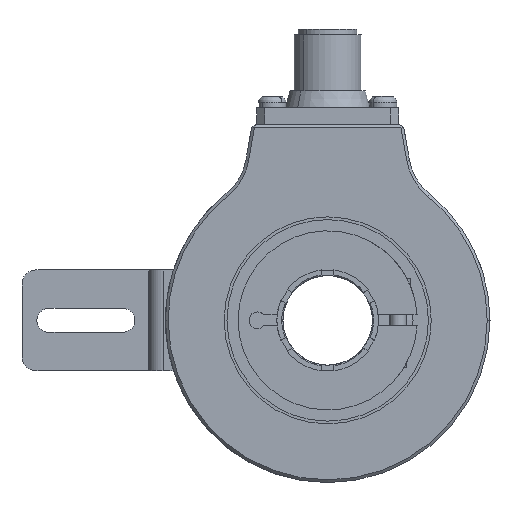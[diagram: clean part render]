
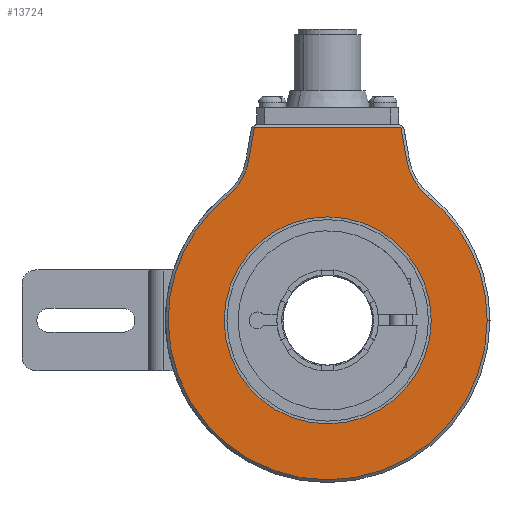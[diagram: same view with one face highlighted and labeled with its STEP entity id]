
A CAD part, left-side view. The second image highlights one B-rep face of the part: STEP entity #13724.
In plain terms, the highlighted planar face has unit normal (-1, 0, 0).
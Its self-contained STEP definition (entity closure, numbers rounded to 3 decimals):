
#14 = VERTEX_POINT ( 'NONE', #21094 ) ;
#329 = ORIENTED_EDGE ( 'NONE', *, *, #13769, .T. ) ;
#349 = LINE ( 'NONE', #10658, #14247 ) ;
#464 = LINE ( 'NONE', #6817, #12156 ) ;
#742 = CARTESIAN_POINT ( 'NONE',  ( -27., 0., 0. ) ) ;
#1132 = EDGE_CURVE ( 'NONE', #12300, #14, #18767, .T. ) ;
#1183 = CARTESIAN_POINT ( 'NONE',  ( -27., -13.08, 34.5 ) ) ;
#1698 = ORIENTED_EDGE ( 'NONE', *, *, #22466, .T. ) ;
#1988 = FACE_BOUND ( 'NONE', #5858, .T. ) ;
#2061 = VERTEX_POINT ( 'NONE', #13987 ) ;
#2632 = AXIS2_PLACEMENT_3D ( 'NONE', #15792, #6795, #15563 ) ;
#2935 = DIRECTION ( 'NONE',  ( 1., 0., 0. ) ) ;
#3313 = CIRCLE ( 'NONE', #14908, 18.5 ) ;
#3734 = DIRECTION ( 'NONE',  ( 0., 0.174, 0.985 ) ) ;
#3962 = DIRECTION ( 'NONE',  ( 0., -1., 0. ) ) ;
#4111 = CARTESIAN_POINT ( 'NONE',  ( -27., 17.883, 22.191 ) ) ;
#4221 = EDGE_CURVE ( 'NONE', #8905, #2061, #21998, .T. ) ;
#4504 = AXIS2_PLACEMENT_3D ( 'NONE', #16896, #6250, #4614 ) ;
#4614 = DIRECTION ( 'NONE',  ( 0., -1., 0. ) ) ;
#4829 = EDGE_CURVE ( 'NONE', #14, #12300, #3313, .T. ) ;
#4901 = EDGE_CURVE ( 'NONE', #20304, #12244, #19406, .T. ) ;
#5015 = VERTEX_POINT ( 'NONE', #9791 ) ;
#5376 = DIRECTION ( 'NONE',  ( 0., -1., 0. ) ) ;
#5561 = ORIENTED_EDGE ( 'NONE', *, *, #12462, .T. ) ;
#5858 = EDGE_LOOP ( 'NONE', ( #12519, #22228 ) ) ;
#6134 = DIRECTION ( 'NONE',  ( 0., -1., 0. ) ) ;
#6250 = DIRECTION ( 'NONE',  ( -1., 0., 0. ) ) ;
#6410 = ORIENTED_EDGE ( 'NONE', *, *, #4901, .T. ) ;
#6549 = VECTOR ( 'NONE', #17440, 1000. ) ;
#6571 = CARTESIAN_POINT ( 'NONE',  ( -27., 28.5, 0. ) ) ;
#6795 = DIRECTION ( 'NONE',  ( 1., 0., 0. ) ) ;
#6817 = CARTESIAN_POINT ( 'NONE',  ( -27., 19.46, -1.682 ) ) ;
#7425 = DIRECTION ( 'NONE',  ( 0., -1., 0. ) ) ;
#7927 = AXIS2_PLACEMENT_3D ( 'NONE', #742, #13484, #15138 ) ;
#8203 = CARTESIAN_POINT ( 'NONE',  ( -27., 0., 0. ) ) ;
#8905 = VERTEX_POINT ( 'NONE', #6571 ) ;
#8914 = CARTESIAN_POINT ( 'NONE',  ( -27., 13.08, 34.5 ) ) ;
#9118 = PLANE ( 'NONE',  #21889 ) ;
#9336 = CIRCLE ( 'NONE', #10843, 28.5 ) ;
#9634 = DIRECTION ( 'NONE',  ( -1., 0., 0. ) ) ;
#9725 = DIRECTION ( 'NONE',  ( 0., 1., 0. ) ) ;
#9727 = VERTEX_POINT ( 'NONE', #1183 ) ;
#9791 = CARTESIAN_POINT ( 'NONE',  ( -27., -17.883, 22.191 ) ) ;
#10065 = CARTESIAN_POINT ( 'NONE',  ( -27., 29., 34.5 ) ) ;
#10331 = FACE_OUTER_BOUND ( 'NONE', #22254, .T. ) ;
#10653 = VERTEX_POINT ( 'NONE', #8914 ) ;
#10658 = CARTESIAN_POINT ( 'NONE',  ( -27., -17.711, 8.236 ) ) ;
#10843 = AXIS2_PLACEMENT_3D ( 'NONE', #21945, #9634, #7425 ) ;
#10983 = CARTESIAN_POINT ( 'NONE',  ( -27., 24.471, 30.367 ) ) ;
#11169 = DIRECTION ( 'NONE',  ( -1., 0., 0. ) ) ;
#11628 = CIRCLE ( 'NONE', #4504, 28.5 ) ;
#11900 = AXIS2_PLACEMENT_3D ( 'NONE', #22180, #11169, #6134 ) ;
#12156 = VECTOR ( 'NONE', #18258, 1000. ) ;
#12244 = VERTEX_POINT ( 'NONE', #4111 ) ;
#12300 = VERTEX_POINT ( 'NONE', #20736 ) ;
#12462 = EDGE_CURVE ( 'NONE', #15616, #9727, #349, .T. ) ;
#12519 = ORIENTED_EDGE ( 'NONE', *, *, #1132, .T. ) ;
#12664 = ORIENTED_EDGE ( 'NONE', *, *, #21482, .T. ) ;
#12724 = CIRCLE ( 'NONE', #2632, 10.5 ) ;
#12846 = DIRECTION ( 'NONE',  ( 1., 0., 0. ) ) ;
#13484 = DIRECTION ( 'NONE',  ( 1., 0., 0. ) ) ;
#13724 = ADVANCED_FACE ( 'NONE', ( #10331, #1988 ), #9118, .T. ) ;
#13769 = EDGE_CURVE ( 'NONE', #10653, #20304, #464, .T. ) ;
#13987 = CARTESIAN_POINT ( 'NONE',  ( -27., -28.5, 0. ) ) ;
#14247 = VECTOR ( 'NONE', #3734, 1000. ) ;
#14496 = CARTESIAN_POINT ( 'NONE',  ( -27., 29., 0. ) ) ;
#14908 = AXIS2_PLACEMENT_3D ( 'NONE', #8203, #2935, #9725 ) ;
#15138 = DIRECTION ( 'NONE',  ( 0., 1., 0. ) ) ;
#15289 = ORIENTED_EDGE ( 'NONE', *, *, #19604, .T. ) ;
#15563 = DIRECTION ( 'NONE',  ( 0., -1., 0. ) ) ;
#15616 = VERTEX_POINT ( 'NONE', #19282 ) ;
#15792 = CARTESIAN_POINT ( 'NONE',  ( -27., -24.471, 30.367 ) ) ;
#16896 = CARTESIAN_POINT ( 'NONE',  ( -27., 0., 0. ) ) ;
#17440 = DIRECTION ( 'NONE',  ( 0., 1., 0. ) ) ;
#18258 = DIRECTION ( 'NONE',  ( 0., 0.174, -0.985 ) ) ;
#18295 = AXIS2_PLACEMENT_3D ( 'NONE', #10983, #12846, #3962 ) ;
#18767 = CIRCLE ( 'NONE', #7927, 18.5 ) ;
#18978 = LINE ( 'NONE', #10065, #6549 ) ;
#19282 = CARTESIAN_POINT ( 'NONE',  ( -27., -14.131, 28.544 ) ) ;
#19406 = CIRCLE ( 'NONE', #18295, 10.5 ) ;
#19604 = EDGE_CURVE ( 'NONE', #5015, #15616, #12724, .T. ) ;
#19611 = ORIENTED_EDGE ( 'NONE', *, *, #4221, .T. ) ;
#19988 = EDGE_CURVE ( 'NONE', #2061, #5015, #11628, .T. ) ;
#20304 = VERTEX_POINT ( 'NONE', #20739 ) ;
#20736 = CARTESIAN_POINT ( 'NONE',  ( -27., 18.5, 0. ) ) ;
#20739 = CARTESIAN_POINT ( 'NONE',  ( -27., 14.131, 28.544 ) ) ;
#21094 = CARTESIAN_POINT ( 'NONE',  ( -27., -18.5, 0. ) ) ;
#21221 = ORIENTED_EDGE ( 'NONE', *, *, #19988, .T. ) ;
#21416 = DIRECTION ( 'NONE',  ( -1., 0., 0. ) ) ;
#21482 = EDGE_CURVE ( 'NONE', #9727, #10653, #18978, .T. ) ;
#21889 = AXIS2_PLACEMENT_3D ( 'NONE', #14496, #21416, #5376 ) ;
#21945 = CARTESIAN_POINT ( 'NONE',  ( -27., 0., 0. ) ) ;
#21998 = CIRCLE ( 'NONE', #11900, 28.5 ) ;
#22180 = CARTESIAN_POINT ( 'NONE',  ( -27., 0., 0. ) ) ;
#22228 = ORIENTED_EDGE ( 'NONE', *, *, #4829, .T. ) ;
#22254 = EDGE_LOOP ( 'NONE', ( #5561, #12664, #329, #6410, #1698, #19611, #21221, #15289 ) ) ;
#22466 = EDGE_CURVE ( 'NONE', #12244, #8905, #9336, .T. ) ;
